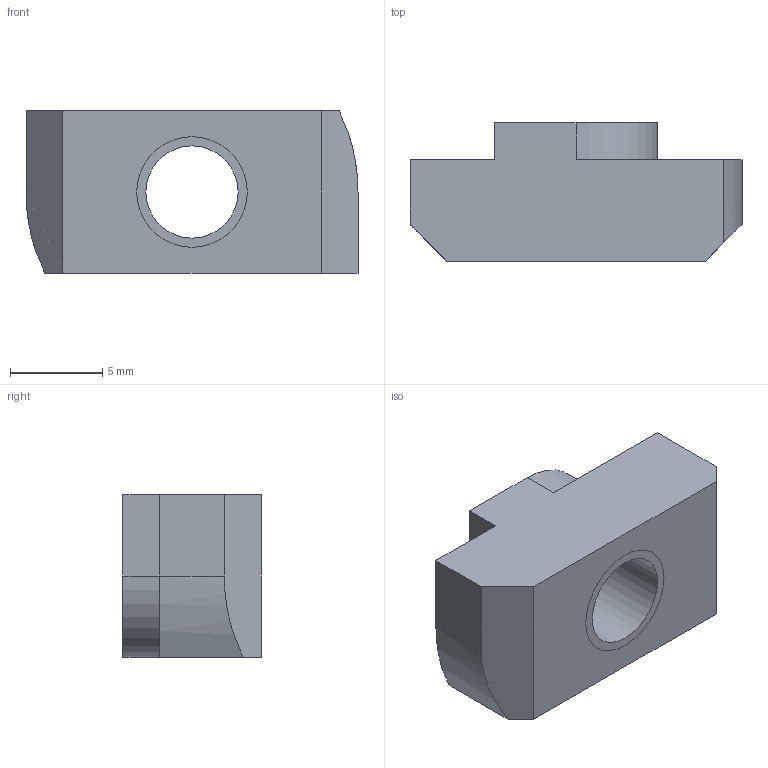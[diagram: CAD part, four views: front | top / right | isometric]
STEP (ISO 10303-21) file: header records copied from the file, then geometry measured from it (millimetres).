
FILE_DESCRIPTION((''),'2;1');
FILE_NAME('DAM0609','2002-12-27T',('Lipro doo'),('Lipro d.o.o.'),'PRO/ENGINEER BY PARAMETRIC TECHNOLOGY CORPORATION, 2001150','PRO/ENGINEER BY PARAMETRIC TECHNOLOGY CORPORATION, 2001150','');
FILE_SCHEMA(('CONFIG_CONTROL_DESIGN'));
Length unit declared in the file: millimetre
Products named in the file (1): DAM0609
Bounding box: 18 x 7.5 x 8.8 mm (x, y, z)
Volume: 812.5 mm3; surface area: 847.1 mm2
Topology: 1 solids, 2 shells, 22 faces, 58 edges, 38 vertices
Faces by surface type: plane 12, cylinder 8, cone 2
Entity records: 734 total; most frequent: CARTESIAN_POINT 127, DIRECTION 118, ORIENTED_EDGE 112, EDGE_CURVE 58, VECTOR 40, LINE 40, AXIS2_PLACEMENT_3D 39, VERTEX_POINT 38
